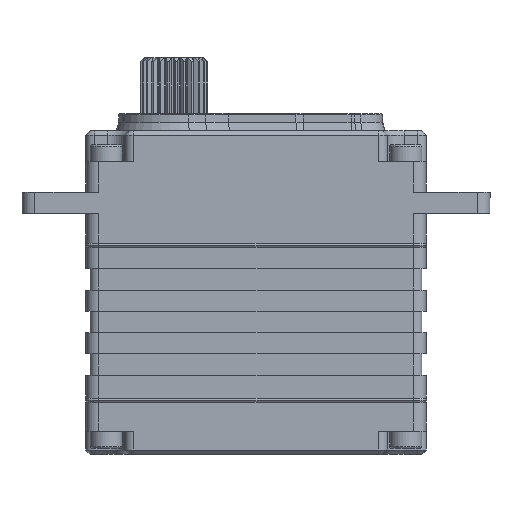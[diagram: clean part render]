
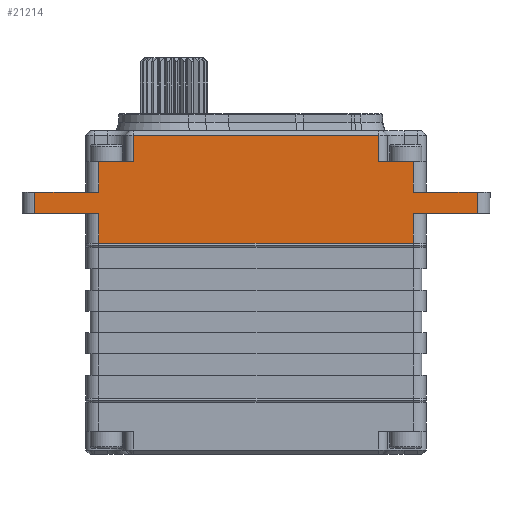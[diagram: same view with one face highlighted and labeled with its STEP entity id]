
A CAD part, front view. The second image highlights one B-rep face of the part: STEP entity #21214.
In plain terms, the highlighted planar face has unit normal (0, -1, 0).
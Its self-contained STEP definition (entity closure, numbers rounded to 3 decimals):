
#212 = CARTESIAN_POINT ( 'NONE',  ( -111.051, -0.061, 10.85 ) ) ;
#282 = VERTEX_POINT ( 'NONE', #20406 ) ;
#485 = LINE ( 'NONE', #16752, #11210 ) ;
#870 = EDGE_CURVE ( 'NONE', #22305, #17829, #17993, .T. ) ;
#1158 = CARTESIAN_POINT ( 'NONE',  ( -57.101, -0.061, 10.85 ) ) ;
#1396 = LINE ( 'NONE', #20548, #4802 ) ;
#1471 = ORIENTED_EDGE ( 'NONE', *, *, #11539, .T. ) ;
#1485 = CARTESIAN_POINT ( 'NONE',  ( -59.051, -0.061, 13.35 ) ) ;
#1777 = ORIENTED_EDGE ( 'NONE', *, *, #14402, .F. ) ;
#2085 = VECTOR ( 'NONE', #26735, 1000. ) ;
#2100 = VERTEX_POINT ( 'NONE', #6694 ) ;
#2101 = LINE ( 'NONE', #2725, #10182 ) ;
#2419 = ORIENTED_EDGE ( 'NONE', *, *, #16881, .T. ) ;
#2624 = ORIENTED_EDGE ( 'NONE', *, *, #16722, .F. ) ;
#2725 = CARTESIAN_POINT ( 'NONE',  ( -67.001, -0.061, 13.35 ) ) ;
#3379 = ORIENTED_EDGE ( 'NONE', *, *, #13514, .F. ) ;
#3642 = CARTESIAN_POINT ( 'NONE',  ( -59.051, -0.061, 21.05 ) ) ;
#3761 = VERTEX_POINT ( 'NONE', #25698 ) ;
#3941 = LINE ( 'NONE', #12775, #19685 ) ;
#4029 = LINE ( 'NONE', #24685, #11062 ) ;
#4151 = VERTEX_POINT ( 'NONE', #1485 ) ;
#4802 = VECTOR ( 'NONE', #5625, 1000. ) ;
#5134 = DIRECTION ( 'NONE',  ( -1., 0., 0. ) ) ;
#5625 = DIRECTION ( 'NONE',  ( -1., 0., 0. ) ) ;
#5661 = VECTOR ( 'NONE', #5134, 1000. ) ;
#5982 = ORIENTED_EDGE ( 'NONE', *, *, #21641, .T. ) ;
#6277 = CARTESIAN_POINT ( 'NONE',  ( -66.551, -0.061, 7.765 ) ) ;
#6563 = VECTOR ( 'NONE', #23258, 1000. ) ;
#6668 = VERTEX_POINT ( 'NONE', #25107 ) ;
#6694 = CARTESIAN_POINT ( 'NONE',  ( -103.551, -0.061, 16.95 ) ) ;
#6825 = VECTOR ( 'NONE', #18643, 1000. ) ;
#7330 = VECTOR ( 'NONE', #23940, 1000. ) ;
#7838 = VERTEX_POINT ( 'NONE', #26163 ) ;
#8127 = LINE ( 'NONE', #26547, #2085 ) ;
#8484 = ORIENTED_EDGE ( 'NONE', *, *, #16550, .T. ) ;
#8520 = VECTOR ( 'NONE', #17097, 1000. ) ;
#8887 = EDGE_CURVE ( 'NONE', #22241, #282, #3941, .T. ) ;
#9140 = VERTEX_POINT ( 'NONE', #11934 ) ;
#9525 = DIRECTION ( 'NONE',  ( 0., 0., 1. ) ) ;
#9649 = LINE ( 'NONE', #24442, #21034 ) ;
#10103 = ORIENTED_EDGE ( 'NONE', *, *, #8887, .T. ) ;
#10182 = VECTOR ( 'NONE', #24145, 1000. ) ;
#10249 = CARTESIAN_POINT ( 'NONE',  ( -66.551, -0.061, 16.95 ) ) ;
#10344 = LINE ( 'NONE', #21590, #7330 ) ;
#10391 = CARTESIAN_POINT ( 'NONE',  ( -56.451, -0.061, 16.95 ) ) ;
#10623 = VERTEX_POINT ( 'NONE', #27003 ) ;
#10829 = EDGE_LOOP ( 'NONE', ( #1471, #10839, #10103, #2419, #8484, #3379, #12607, #22629, #21237, #5982, #23104, #16848, #1777, #2624, #17747, #13709 ) ) ;
#10839 = ORIENTED_EDGE ( 'NONE', *, *, #17576, .T. ) ;
#11062 = VECTOR ( 'NONE', #26837, 1000. ) ;
#11210 = VECTOR ( 'NONE', #22946, 1000. ) ;
#11329 = CARTESIAN_POINT ( 'NONE',  ( -99.451, -0.061, 20.05 ) ) ;
#11539 = EDGE_CURVE ( 'NONE', #26176, #6668, #485, .T. ) ;
#11934 = CARTESIAN_POINT ( 'NONE',  ( -59.051, -0.061, 10.85 ) ) ;
#12004 = EDGE_CURVE ( 'NONE', #3761, #7838, #8127, .T. ) ;
#12067 = VERTEX_POINT ( 'NONE', #21266 ) ;
#12097 = LINE ( 'NONE', #10391, #24509 ) ;
#12587 = EDGE_CURVE ( 'NONE', #3761, #21718, #4029, .T. ) ;
#12607 = ORIENTED_EDGE ( 'NONE', *, *, #20596, .T. ) ;
#12775 = CARTESIAN_POINT ( 'NONE',  ( -99.451, -0.061, 7.765 ) ) ;
#13349 = PLANE ( 'NONE',  #18344 ) ;
#13383 = CARTESIAN_POINT ( 'NONE',  ( -111.051, -0.061, 7.765 ) ) ;
#13462 = CARTESIAN_POINT ( 'NONE',  ( -111.051, -0.061, 13.35 ) ) ;
#13514 = EDGE_CURVE ( 'NONE', #18653, #10623, #9649, .T. ) ;
#13575 = CARTESIAN_POINT ( 'NONE',  ( -66.551, -0.061, 7.35 ) ) ;
#13709 = ORIENTED_EDGE ( 'NONE', *, *, #21081, .T. ) ;
#13907 = DIRECTION ( 'NONE',  ( -1., 0., 0. ) ) ;
#14205 = LINE ( 'NONE', #13383, #15227 ) ;
#14261 = CARTESIAN_POINT ( 'NONE',  ( -66.551, -0.061, 10.85 ) ) ;
#14402 = EDGE_CURVE ( 'NONE', #4151, #9140, #26648, .T. ) ;
#14854 = LINE ( 'NONE', #24534, #16219 ) ;
#14925 = DIRECTION ( 'NONE',  ( 0., 0., -1. ) ) ;
#15227 = VECTOR ( 'NONE', #19763, 1000. ) ;
#16219 = VECTOR ( 'NONE', #9525, 1000. ) ;
#16550 = EDGE_CURVE ( 'NONE', #2100, #10623, #22258, .T. ) ;
#16714 = CARTESIAN_POINT ( 'NONE',  ( -103.551, -0.061, 7.765 ) ) ;
#16722 = EDGE_CURVE ( 'NONE', #12067, #4151, #2101, .T. ) ;
#16723 = LINE ( 'NONE', #1158, #24121 ) ;
#16752 = CARTESIAN_POINT ( 'NONE',  ( -70.651, -0.061, 7.765 ) ) ;
#16848 = ORIENTED_EDGE ( 'NONE', *, *, #19274, .F. ) ;
#16881 = EDGE_CURVE ( 'NONE', #282, #2100, #1396, .T. ) ;
#16934 = DIRECTION ( 'NONE',  ( -1., 0., 0. ) ) ;
#17097 = DIRECTION ( 'NONE',  ( 0., 0., -1. ) ) ;
#17576 = EDGE_CURVE ( 'NONE', #6668, #22241, #21093, .T. ) ;
#17747 = ORIENTED_EDGE ( 'NONE', *, *, #22722, .T. ) ;
#17829 = VERTEX_POINT ( 'NONE', #14261 ) ;
#17993 = LINE ( 'NONE', #6277, #6563 ) ;
#18344 = AXIS2_PLACEMENT_3D ( 'NONE', #19829, #23883, #26026 ) ;
#18643 = DIRECTION ( 'NONE',  ( 0., 0., -1. ) ) ;
#18653 = VERTEX_POINT ( 'NONE', #13462 ) ;
#19274 = EDGE_CURVE ( 'NONE', #9140, #17829, #16723, .T. ) ;
#19685 = VECTOR ( 'NONE', #14925, 1000. ) ;
#19763 = DIRECTION ( 'NONE',  ( 0., 0., -1. ) ) ;
#19829 = CARTESIAN_POINT ( 'NONE',  ( -56.451, -0.061, 7.765 ) ) ;
#20317 = VERTEX_POINT ( 'NONE', #10249 ) ;
#20406 = CARTESIAN_POINT ( 'NONE',  ( -99.451, -0.061, 16.95 ) ) ;
#20548 = CARTESIAN_POINT ( 'NONE',  ( -56.451, -0.061, 16.95 ) ) ;
#20596 = EDGE_CURVE ( 'NONE', #18653, #21718, #14205, .T. ) ;
#21034 = VECTOR ( 'NONE', #26483, 1000. ) ;
#21081 = EDGE_CURVE ( 'NONE', #20317, #26176, #12097, .T. ) ;
#21093 = LINE ( 'NONE', #24719, #5661 ) ;
#21214 = ADVANCED_FACE ( 'NONE', ( #27242 ), #13349, .T. ) ;
#21237 = ORIENTED_EDGE ( 'NONE', *, *, #12004, .T. ) ;
#21241 = CARTESIAN_POINT ( 'NONE',  ( -70.651, -0.061, 16.95 ) ) ;
#21266 = CARTESIAN_POINT ( 'NONE',  ( -66.551, -0.061, 13.35 ) ) ;
#21590 = CARTESIAN_POINT ( 'NONE',  ( -66.551, -0.061, 7.35 ) ) ;
#21641 = EDGE_CURVE ( 'NONE', #7838, #22305, #10344, .T. ) ;
#21718 = VERTEX_POINT ( 'NONE', #212 ) ;
#22241 = VERTEX_POINT ( 'NONE', #11329 ) ;
#22258 = LINE ( 'NONE', #16714, #8520 ) ;
#22305 = VERTEX_POINT ( 'NONE', #13575 ) ;
#22629 = ORIENTED_EDGE ( 'NONE', *, *, #12587, .F. ) ;
#22722 = EDGE_CURVE ( 'NONE', #12067, #20317, #14854, .T. ) ;
#22946 = DIRECTION ( 'NONE',  ( 0., 0., 1. ) ) ;
#23104 = ORIENTED_EDGE ( 'NONE', *, *, #870, .T. ) ;
#23258 = DIRECTION ( 'NONE',  ( 0., 0., 1. ) ) ;
#23883 = DIRECTION ( 'NONE',  ( 0., -1., 0. ) ) ;
#23940 = DIRECTION ( 'NONE',  ( 1., 0., 0. ) ) ;
#24121 = VECTOR ( 'NONE', #13907, 1000. ) ;
#24145 = DIRECTION ( 'NONE',  ( 1., 0., 0. ) ) ;
#24442 = CARTESIAN_POINT ( 'NONE',  ( -113.001, -0.061, 13.35 ) ) ;
#24509 = VECTOR ( 'NONE', #16934, 1000. ) ;
#24534 = CARTESIAN_POINT ( 'NONE',  ( -66.551, -0.061, 7.765 ) ) ;
#24685 = CARTESIAN_POINT ( 'NONE',  ( -103.101, -0.061, 10.85 ) ) ;
#24719 = CARTESIAN_POINT ( 'NONE',  ( -56.451, -0.061, 20.05 ) ) ;
#25107 = CARTESIAN_POINT ( 'NONE',  ( -70.651, -0.061, 20.05 ) ) ;
#25698 = CARTESIAN_POINT ( 'NONE',  ( -103.551, -0.061, 10.85 ) ) ;
#26026 = DIRECTION ( 'NONE',  ( 0., 0., 1. ) ) ;
#26163 = CARTESIAN_POINT ( 'NONE',  ( -103.551, -0.061, 7.35 ) ) ;
#26176 = VERTEX_POINT ( 'NONE', #21241 ) ;
#26483 = DIRECTION ( 'NONE',  ( 1., 0., 0. ) ) ;
#26547 = CARTESIAN_POINT ( 'NONE',  ( -103.551, -0.061, 7.765 ) ) ;
#26648 = LINE ( 'NONE', #3642, #6825 ) ;
#26735 = DIRECTION ( 'NONE',  ( 0., 0., -1. ) ) ;
#26837 = DIRECTION ( 'NONE',  ( -1., 0., 0. ) ) ;
#27003 = CARTESIAN_POINT ( 'NONE',  ( -103.551, -0.061, 13.35 ) ) ;
#27242 = FACE_OUTER_BOUND ( 'NONE', #10829, .T. ) ;
